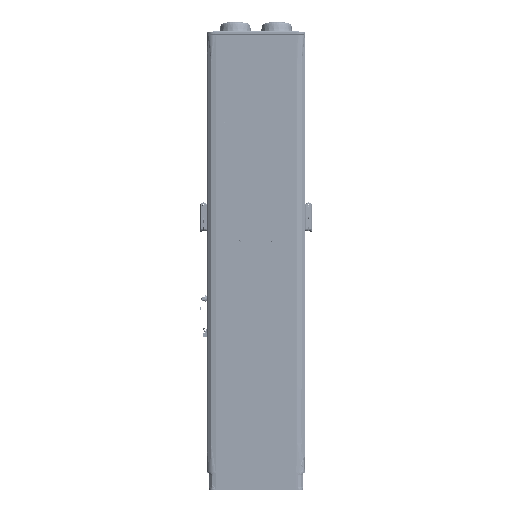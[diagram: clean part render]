
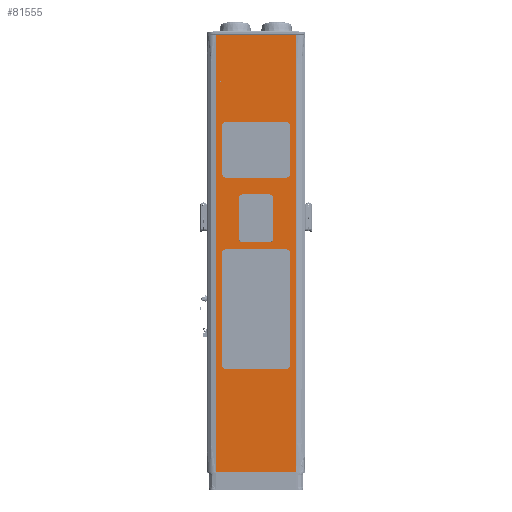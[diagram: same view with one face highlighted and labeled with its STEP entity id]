
A CAD part, top view. The second image highlights one B-rep face of the part: STEP entity #81555.
In plain terms, the highlighted planar face has unit normal (0, 0, 1).
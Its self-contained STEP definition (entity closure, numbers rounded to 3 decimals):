
#70893=DIRECTION('',(1.,0.,0.));
#70894=VECTOR('',#70893,84.5);
#70895=CARTESIAN_POINT('',(-42.25,924.85,100.));
#70896=LINE('',#70895,#70894);
#70900=CARTESIAN_POINT('',(-42.25,912.25,100.));
#70901=DIRECTION('',(0.,0.,-1.));
#70902=DIRECTION('',(-1.,0.,0.));
#70903=AXIS2_PLACEMENT_3D('',#70900,#70901,#70902);
#70908=DIRECTION('',(0.,1.,0.));
#70909=VECTOR('',#70908,124.5);
#70910=CARTESIAN_POINT('',(-54.85,787.75,100.));
#70911=LINE('',#70910,#70909);
#70915=CARTESIAN_POINT('',(-42.25,787.75,100.));
#70916=DIRECTION('',(0.,0.,-1.));
#70917=DIRECTION('',(0.,-1.,0.));
#70918=AXIS2_PLACEMENT_3D('',#70915,#70916,#70917);
#70923=DIRECTION('',(-1.,0.,0.));
#70924=VECTOR('',#70923,84.5);
#70925=CARTESIAN_POINT('',(42.25,775.15,100.));
#70926=LINE('',#70925,#70924);
#70930=CARTESIAN_POINT('',(42.25,787.75,100.));
#70931=DIRECTION('',(0.,0.,-1.));
#70932=DIRECTION('',(1.,0.,0.));
#70933=AXIS2_PLACEMENT_3D('',#70930,#70931,#70932);
#70938=DIRECTION('',(0.,-1.,0.));
#70939=VECTOR('',#70938,124.5);
#70940=CARTESIAN_POINT('',(54.85,912.25,100.));
#70941=LINE('',#70940,#70939);
#70945=CARTESIAN_POINT('',(42.25,912.25,100.));
#70946=DIRECTION('',(0.,0.,-1.));
#70947=DIRECTION('',(0.,1.,0.));
#70948=AXIS2_PLACEMENT_3D('',#70945,#70946,#70947);
#70953=CARTESIAN_POINT('',(94.3,1140.41,100.));
#70954=DIRECTION('',(0.,0.,-1.));
#70955=DIRECTION('',(0.,1.,0.));
#70956=AXIS2_PLACEMENT_3D('',#70953,#70954,#70955);
#70961=DIRECTION('',(1.,0.,0.));
#70962=VECTOR('',#70961,188.6);
#70963=CARTESIAN_POINT('',(-94.3,1152.51,100.));
#70964=LINE('',#70963,#70962);
#70968=CARTESIAN_POINT('',(-94.3,1140.41,100.));
#70969=DIRECTION('',(0.,0.,-1.));
#70970=DIRECTION('',(-1.,0.,0.));
#70971=AXIS2_PLACEMENT_3D('',#70968,#70969,#70970);
#70976=DIRECTION('',(0.,1.,0.));
#70977=VECTOR('',#70976,150.82);
#70978=CARTESIAN_POINT('',(-106.4,989.59,100.));
#70979=LINE('',#70978,#70977);
#70983=CARTESIAN_POINT('',(-94.3,989.59,100.));
#70984=DIRECTION('',(0.,0.,-1.));
#70985=DIRECTION('',(0.,-1.,0.));
#70986=AXIS2_PLACEMENT_3D('',#70983,#70984,#70985);
#70991=DIRECTION('',(-1.,0.,0.));
#70992=VECTOR('',#70991,188.6);
#70993=CARTESIAN_POINT('',(94.3,977.49,100.));
#70994=LINE('',#70993,#70992);
#70998=CARTESIAN_POINT('',(94.3,989.59,100.));
#70999=DIRECTION('',(0.,0.,-1.));
#71000=DIRECTION('',(1.,0.,0.));
#71001=AXIS2_PLACEMENT_3D('',#70998,#70999,#71000);
#71006=DIRECTION('',(0.,-1.,0.));
#71007=VECTOR('',#71006,150.82);
#71008=CARTESIAN_POINT('',(106.4,1140.41,100.));
#71009=LINE('',#71008,#71007);
#71013=DIRECTION('',(1.,0.,0.));
#71014=VECTOR('',#71013,253.);
#71015=CARTESIAN_POINT('',(-126.5,1427.089,100.));
#71016=LINE('',#71015,#71014);
#71020=DIRECTION('',(1.,0.,0.));
#71021=VECTOR('',#71020,253.);
#71022=CARTESIAN_POINT('',(-126.5,53.,100.));
#71023=LINE('',#71022,#71021);
#71027=DIRECTION('',(0.,1.,0.));
#71028=VECTOR('',#71027,1374.089);
#71029=CARTESIAN_POINT('',(-126.5,53.,100.));
#71030=LINE('',#71029,#71028);
#71034=CARTESIAN_POINT('',(-94.5,740.5,100.));
#71035=DIRECTION('',(0.,0.,1.));
#71036=DIRECTION('',(0.,1.,0.));
#71037=AXIS2_PLACEMENT_3D('',#71034,#71035,#71036);
#71042=DIRECTION('',(0.,-1.,0.));
#71043=VECTOR('',#71042,351.);
#71044=CARTESIAN_POINT('',(-106.75,740.5,100.));
#71045=LINE('',#71044,#71043);
#71049=CARTESIAN_POINT('',(-94.5,389.5,100.));
#71050=DIRECTION('',(0.,0.,1.));
#71051=DIRECTION('',(-1.,0.,0.));
#71052=AXIS2_PLACEMENT_3D('',#71049,#71050,#71051);
#71057=DIRECTION('',(1.,0.,0.));
#71058=VECTOR('',#71057,189.);
#71059=CARTESIAN_POINT('',(-94.5,377.25,100.));
#71060=LINE('',#71059,#71058);
#71064=CARTESIAN_POINT('',(94.5,389.5,100.));
#71065=DIRECTION('',(0.,0.,1.));
#71066=DIRECTION('',(0.,-1.,0.));
#71067=AXIS2_PLACEMENT_3D('',#71064,#71065,#71066);
#71072=DIRECTION('',(0.,1.,0.));
#71073=VECTOR('',#71072,351.);
#71074=CARTESIAN_POINT('',(106.75,389.5,100.));
#71075=LINE('',#71074,#71073);
#71079=CARTESIAN_POINT('',(94.5,740.5,100.));
#71080=DIRECTION('',(0.,0.,1.));
#71081=DIRECTION('',(1.,0.,0.));
#71082=AXIS2_PLACEMENT_3D('',#71079,#71080,#71081);
#71087=DIRECTION('',(-1.,0.,0.));
#71088=VECTOR('',#71087,189.);
#71089=CARTESIAN_POINT('',(94.5,752.75,100.));
#71090=LINE('',#71089,#71088);
#71261=DIRECTION('',(0.,1.,0.));
#71262=VECTOR('',#71261,1374.089);
#71263=CARTESIAN_POINT('',(126.5,53.,100.));
#71264=LINE('',#71263,#71262);
#71268=CARTESIAN_POINT('',(-126.5,1427.089,100.));
#71311=CARTESIAN_POINT('',(-126.5,53.,100.));
#77438=CARTESIAN_POINT('',(-94.5,752.75,100.));
#77440=VERTEX_POINT('',#77438);
#77442=CARTESIAN_POINT('',(-106.75,740.5,100.));
#77444=VERTEX_POINT('',#77442);
#77446=CARTESIAN_POINT('',(-106.75,389.5,100.));
#77448=VERTEX_POINT('',#77446);
#77450=CARTESIAN_POINT('',(-94.5,377.25,100.));
#77452=VERTEX_POINT('',#77450);
#77454=CARTESIAN_POINT('',(94.5,377.25,100.));
#77456=VERTEX_POINT('',#77454);
#77458=CARTESIAN_POINT('',(106.75,389.5,100.));
#77460=VERTEX_POINT('',#77458);
#77462=CARTESIAN_POINT('',(106.75,740.5,100.));
#77464=VERTEX_POINT('',#77462);
#77466=CARTESIAN_POINT('',(94.5,752.75,100.));
#77468=VERTEX_POINT('',#77466);
#77702=VERTEX_POINT('',#71311);
#77703=CARTESIAN_POINT('',(126.5,53.,100.));
#77704=VERTEX_POINT('',#77703);
#78253=VERTEX_POINT('',#71268);
#78254=CARTESIAN_POINT('',(126.5,1427.089,100.));
#78255=VERTEX_POINT('',#78254);
#78280=CARTESIAN_POINT('',(94.3,1152.51,100.));
#78281=CARTESIAN_POINT('',(106.4,1140.41,100.));
#78282=VERTEX_POINT('',#78280);
#78283=VERTEX_POINT('',#78281);
#78284=CARTESIAN_POINT('',(106.4,989.59,100.));
#78285=VERTEX_POINT('',#78284);
#78286=CARTESIAN_POINT('',(94.3,977.49,100.));
#78287=VERTEX_POINT('',#78286);
#78288=CARTESIAN_POINT('',(-94.3,977.49,100.));
#78289=VERTEX_POINT('',#78288);
#78290=CARTESIAN_POINT('',(-106.4,989.59,100.));
#78291=VERTEX_POINT('',#78290);
#78292=CARTESIAN_POINT('',(-106.4,1140.41,100.));
#78293=VERTEX_POINT('',#78292);
#78294=CARTESIAN_POINT('',(-94.3,1152.51,100.));
#78295=VERTEX_POINT('',#78294);
#78336=CARTESIAN_POINT('',(-42.25,924.85,100.));
#78337=CARTESIAN_POINT('',(42.25,924.85,100.));
#78338=VERTEX_POINT('',#78336);
#78339=VERTEX_POINT('',#78337);
#78340=CARTESIAN_POINT('',(54.85,912.25,100.));
#78341=VERTEX_POINT('',#78340);
#78342=CARTESIAN_POINT('',(54.85,787.75,100.));
#78343=VERTEX_POINT('',#78342);
#78344=CARTESIAN_POINT('',(42.25,775.15,100.));
#78345=VERTEX_POINT('',#78344);
#78346=CARTESIAN_POINT('',(-42.25,775.15,100.));
#78347=VERTEX_POINT('',#78346);
#78348=CARTESIAN_POINT('',(-54.85,787.75,100.));
#78349=VERTEX_POINT('',#78348);
#78350=CARTESIAN_POINT('',(-54.85,912.25,100.));
#78351=VERTEX_POINT('',#78350);
#81493=CARTESIAN_POINT('',(-126.5,0.,100.));
#81494=DIRECTION('',(0.,0.,1.));
#81495=DIRECTION('',(1.,0.,0.));
#81496=AXIS2_PLACEMENT_3D('',#81493,#81494,#81495);
#81497=PLANE('',#81496);
#81498=ORIENTED_EDGE('',*,*,#79282,.T.);
#81500=ORIENTED_EDGE('',*,*,#81499,.F.);
#81501=ORIENTED_EDGE('',*,*,#79800,.F.);
#81503=ORIENTED_EDGE('',*,*,#81502,.T.);
#81504=EDGE_LOOP('',(#81498,#81500,#81501,#81503));
#81505=FACE_OUTER_BOUND('',#81504,.F.);
#81507=ORIENTED_EDGE('',*,*,#81506,.F.);
#81509=ORIENTED_EDGE('',*,*,#81508,.F.);
#81511=ORIENTED_EDGE('',*,*,#81510,.F.);
#81513=ORIENTED_EDGE('',*,*,#81512,.F.);
#81515=ORIENTED_EDGE('',*,*,#81514,.F.);
#81517=ORIENTED_EDGE('',*,*,#81516,.F.);
#81519=ORIENTED_EDGE('',*,*,#81518,.F.);
#81521=ORIENTED_EDGE('',*,*,#81520,.F.);
#81522=EDGE_LOOP('',(#81507,#81509,#81511,#81513,#81515,#81517,#81519,#81521));
#81523=FACE_BOUND('',#81522,.F.);
#81525=ORIENTED_EDGE('',*,*,#81524,.F.);
#81527=ORIENTED_EDGE('',*,*,#81526,.F.);
#81529=ORIENTED_EDGE('',*,*,#81528,.F.);
#81531=ORIENTED_EDGE('',*,*,#81530,.F.);
#81533=ORIENTED_EDGE('',*,*,#81532,.F.);
#81535=ORIENTED_EDGE('',*,*,#81534,.F.);
#81537=ORIENTED_EDGE('',*,*,#81536,.F.);
#81539=ORIENTED_EDGE('',*,*,#81538,.F.);
#81540=EDGE_LOOP('',(#81525,#81527,#81529,#81531,#81533,#81535,#81537,#81539));
#81541=FACE_BOUND('',#81540,.F.);
#81542=ORIENTED_EDGE('',*,*,#81351,.T.);
#81543=ORIENTED_EDGE('',*,*,#81402,.T.);
#81544=ORIENTED_EDGE('',*,*,#81452,.T.);
#81545=ORIENTED_EDGE('',*,*,#80111,.T.);
#81547=ORIENTED_EDGE('',*,*,#81546,.T.);
#81549=ORIENTED_EDGE('',*,*,#81548,.T.);
#81551=ORIENTED_EDGE('',*,*,#81550,.T.);
#81552=ORIENTED_EDGE('',*,*,#80702,.T.);
#81553=EDGE_LOOP('',(#81542,#81543,#81544,#81545,#81547,#81549,#81551,#81552));
#81554=FACE_BOUND('',#81553,.F.);
#81555=ADVANCED_FACE('',(#81505,#81523,#81541,#81554),#81497,.T.);
#70904=CIRCLE('',#70903,12.6);
#70919=CIRCLE('',#70918,12.6);
#70934=CIRCLE('',#70933,12.6);
#70949=CIRCLE('',#70948,12.6);
#70957=CIRCLE('',#70956,12.1);
#70972=CIRCLE('',#70971,12.1);
#70987=CIRCLE('',#70986,12.1);
#71002=CIRCLE('',#71001,12.1);
#71038=CIRCLE('',#71037,12.25);
#71053=CIRCLE('',#71052,12.25);
#71068=CIRCLE('',#71067,12.25);
#71083=CIRCLE('',#71082,12.25);
#79282=EDGE_CURVE('',#78253,#78255,#71016,.T.);
#79800=EDGE_CURVE('',#77702,#77704,#71023,.T.);
#80111=EDGE_CURVE('',#77452,#77456,#71060,.T.);
#80702=EDGE_CURVE('',#77468,#77440,#71090,.T.);
#81351=EDGE_CURVE('',#77440,#77444,#71038,.T.);
#81402=EDGE_CURVE('',#77444,#77448,#71045,.T.);
#81452=EDGE_CURVE('',#77448,#77452,#71053,.T.);
#81499=EDGE_CURVE('',#77704,#78255,#71264,.T.);
#81502=EDGE_CURVE('',#77702,#78253,#71030,.T.);
#81506=EDGE_CURVE('',#78282,#78283,#70957,.T.);
#81508=EDGE_CURVE('',#78295,#78282,#70964,.T.);
#81510=EDGE_CURVE('',#78293,#78295,#70972,.T.);
#81512=EDGE_CURVE('',#78291,#78293,#70979,.T.);
#81514=EDGE_CURVE('',#78289,#78291,#70987,.T.);
#81516=EDGE_CURVE('',#78287,#78289,#70994,.T.);
#81518=EDGE_CURVE('',#78285,#78287,#71002,.T.);
#81520=EDGE_CURVE('',#78283,#78285,#71009,.T.);
#81524=EDGE_CURVE('',#78338,#78339,#70896,.T.);
#81526=EDGE_CURVE('',#78351,#78338,#70904,.T.);
#81528=EDGE_CURVE('',#78349,#78351,#70911,.T.);
#81530=EDGE_CURVE('',#78347,#78349,#70919,.T.);
#81532=EDGE_CURVE('',#78345,#78347,#70926,.T.);
#81534=EDGE_CURVE('',#78343,#78345,#70934,.T.);
#81536=EDGE_CURVE('',#78341,#78343,#70941,.T.);
#81538=EDGE_CURVE('',#78339,#78341,#70949,.T.);
#81546=EDGE_CURVE('',#77456,#77460,#71068,.T.);
#81548=EDGE_CURVE('',#77460,#77464,#71075,.T.);
#81550=EDGE_CURVE('',#77464,#77468,#71083,.T.);
